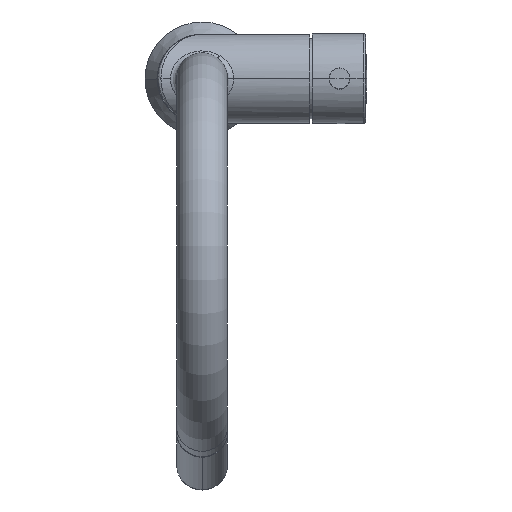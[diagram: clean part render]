
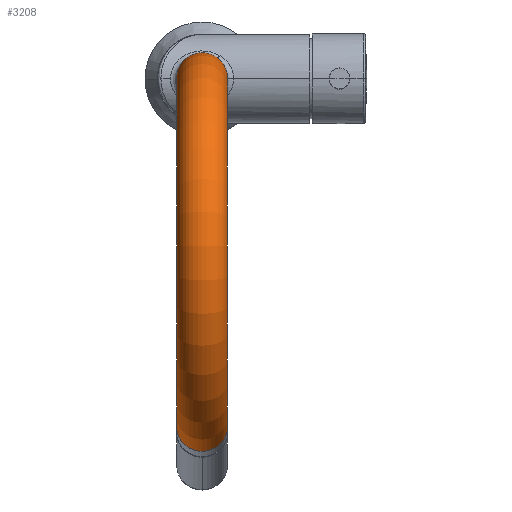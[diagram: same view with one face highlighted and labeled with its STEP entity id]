
A CAD part, top view. The second image highlights one B-rep face of the part: STEP entity #3208.
In plain terms, the highlighted toroidal (fillet/blend) face has major radius 84 mm and minor radius 12 mm.
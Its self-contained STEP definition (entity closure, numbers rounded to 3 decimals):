
#192=CARTESIAN_POINT('',(0.,0.,239.));
#193=DIRECTION('',(0.,0.,1.));
#194=DIRECTION('',(1.,0.,0.));
#195=AXIS2_PLACEMENT_3D('',#192,#193,#194);
#197=CARTESIAN_POINT('',(12.,-84.,239.));
#198=DIRECTION('',(1.,0.,0.));
#199=DIRECTION('',(0.,1.,0.));
#200=AXIS2_PLACEMENT_3D('',#197,#198,#199);
#202=CARTESIAN_POINT('',(0.,-165.138,
260.741));
#203=DIRECTION('',(0.,0.259,0.966));
#204=DIRECTION('',(-1.,0.,0.));
#205=AXIS2_PLACEMENT_3D('',#202,#203,#204);
#207=CARTESIAN_POINT('',(-12.,-84.,239.));
#208=DIRECTION('',(1.,0.,0.));
#209=DIRECTION('',(0.,1.,0.));
#210=AXIS2_PLACEMENT_3D('',#207,#208,#209);
#2691=CARTESIAN_POINT('',(12.,-165.138,260.741));
#2693=VERTEX_POINT('',#2691);
#2697=CARTESIAN_POINT('',(-12.,-165.138,
260.741));
#2698=VERTEX_POINT('',#2697);
#2699=CARTESIAN_POINT('',(12.,0.,239.));
#2700=VERTEX_POINT('',#2699);
#2701=CARTESIAN_POINT('',(-12.,0.,239.));
#2702=VERTEX_POINT('',#2701);
#3196=CARTESIAN_POINT('',(0.,-84.,239.));
#3197=DIRECTION('',(1.,0.,0.));
#3198=DIRECTION('',(0.,1.,0.));
#3199=AXIS2_PLACEMENT_3D('',#3196,#3197,#3198);
#3200=TOROIDAL_SURFACE('',#3199,84.,12.);
#3202=ORIENTED_EDGE('',*,*,#3201,.F.);
#3203=ORIENTED_EDGE('',*,*,#3187,.T.);
#3204=ORIENTED_EDGE('',*,*,#3163,.F.);
#3205=ORIENTED_EDGE('',*,*,#3191,.F.);
#3206=EDGE_LOOP('',(#3202,#3203,#3204,#3205));
#3207=FACE_OUTER_BOUND('',#3206,.F.);
#196=CIRCLE('',#195,12.);
#201=CIRCLE('',#200,84.);
#206=CIRCLE('',#205,12.);
#211=CIRCLE('',#210,84.);
#3163=EDGE_CURVE('',#2698,#2693,#206,.T.);
#3187=EDGE_CURVE('',#2700,#2693,#201,.T.);
#3191=EDGE_CURVE('',#2702,#2698,#211,.T.);
#3201=EDGE_CURVE('',#2700,#2702,#196,.T.);
#3208=ADVANCED_FACE('',(#3207),#3200,.T.);
